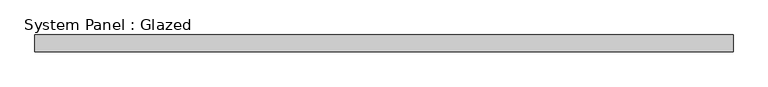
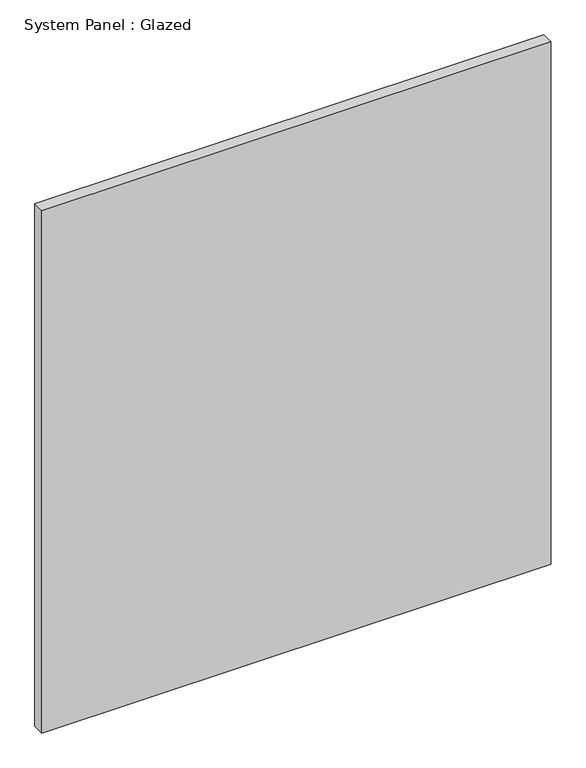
"""IFC4 building model written with IfcOpenShell, lengths in millimetres: plate geometry, System Panel : Glazed."""

from ifc_helpers import new_model, si_unit, origin, origin_with_axes, place, context, project, spatial, polyline, outline, extrude, source, transform, mapped, element, save


def system_panel_glazed_4e7d67ad(model_context):
    return source(origin(), model_context, "Body", "SweptSolid", [
        extrude(outline(polyline([(533.0412548, 19.05), (-533.0412548, 19.05), (-533.0412548, 44.45), (533.0412548, 44.45), (533.0412548, 19.05)])), origin_with_axes(), (0.0, 0.0, 1.0), 1155.7),
    ])


if __name__ == "__main__":
    model = new_model("IFC4")
    model_context = context("Model", 3, world=origin())
    ifc_project = project(units=[si_unit("LENGTHUNIT", "METRE", prefix="MILLI")], contexts=[model_context])
    site = spatial("IfcSite", under=ifc_project)
    building = spatial("IfcBuilding", under=site)
    placement = place(None, origin())
    system_panel_glazed_shape = system_panel_glazed_4e7d67ad(model_context)
    element("IfcPlate", 1, ObjectType="System Panel : Glazed", at=placement, inside=building, context=model_context, shape_type="MappedRepresentation", body=[
        mapped(system_panel_glazed_shape, transform((0.0, 0.0, 0.0), x_axis=(1.0, 0.0, 0.0), y_axis=(0.0, 1.0, 0.0), z_axis=(0.0, 0.0, 1.0))),
    ])
    save(model, "model.ifc")
